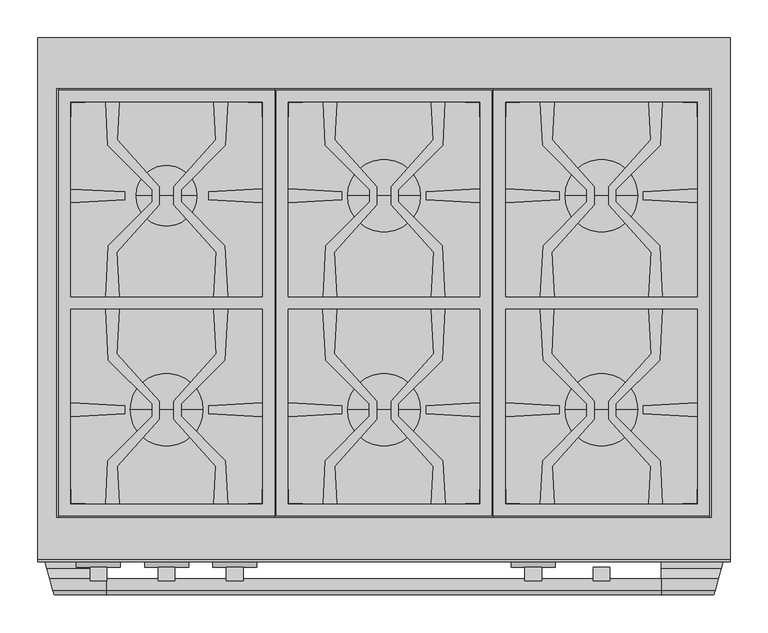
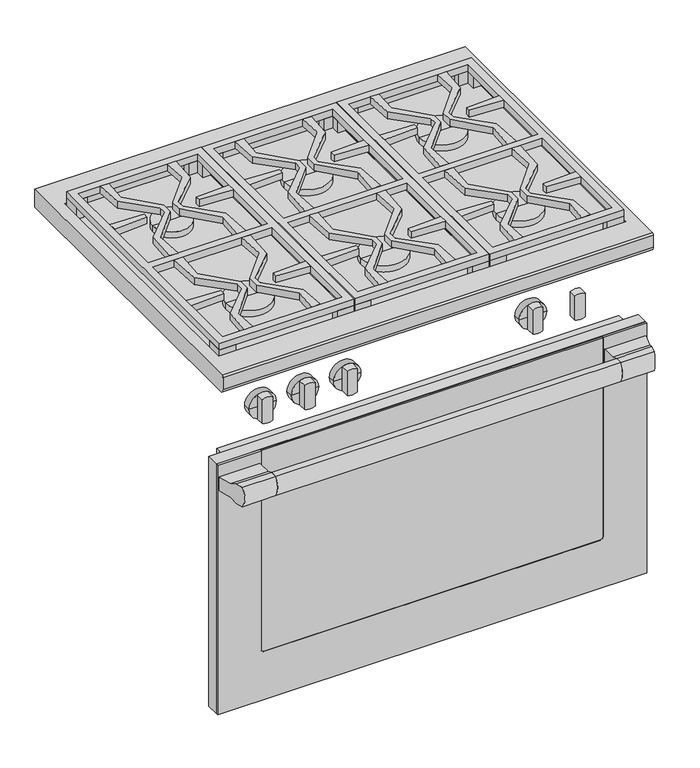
"""IFC4 building model written with IfcOpenShell, lengths in millimetres: proxy geometry, 10902390_USA_HR1934-2LP_EDST-CLS : 25193472_USA_10902390_HR1934-2LP_EDST-CLS."""

from ifc_helpers import new_model, si_unit, point, frame, frame_2d, origin, place, context, project, spatial, polyline, circle_curve, ellipse_curve, trimmed, segment, composite_curve, outline, extrude, source, transform, mapped, element, save
from ifc_brep_helpers import plane_surface, cylinder_surface, revolved_surface, advanced_brep


def specialty_equipment_318ea96c(model_context):
    return source(origin(), model_context, "Body", "SolidModel", [
        extrude(outline(composite_curve([segment(polyline([(-729.0, 667.0), (-714.0, 667.0), (-714.0, 624.0), (-729.0, 624.0)]), True, "CONTINUOUS"), segment(trimmed(circle_curve(frame_2d((-693.4791667, 645.5)), 41.5208333), [point((-729.0, 624.0))], [point((-729.0, 667.0))], False, "CARTESIAN"), True, "CONTINUOUS")], self_intersect=False)), frame((-366.0, 0.0, 0.0), z_axis=(1.0, 0.0, 0.0), x_axis=(0.0, 1.0, 0.0)), (0.0, 0.0, 1.0), 732.0),
        extrude(outline(polyline([(-456.0, -638.0), (456.0, -638.0), (456.0, -664.7), (-456.0, -664.7), (-456.0, -638.0)])), frame((0.0, 0.0, 127.0), z_axis=(0.0, 0.0, 1.0), x_axis=(1.0, 0.0, 0.0)), (0.0, 0.0, 1.0), 561.0),
        extrude(outline(polyline([(-455.0, -664.7), (455.0, -664.7), (455.0, -668.7), (-455.0, -668.7), (-455.0, -664.7)])), frame((0.0, 0.0, 128.0), z_axis=(0.0, 0.0, 1.0), x_axis=(1.0, 0.0, 0.0)), (0.0, 0.0, 1.0), 559.0),
        advanced_brep(
        [(363.0, -664.7, 688.0), (456.0, -664.7, 688.0), (456.0, -664.7, 127.0), (-456.0, -664.7, 127.0), (-456.0, -664.7, 688.0), (-363.0, -664.7, 688.0), (-363.0, -664.7, 687.0), (-455.0, -664.7, 687.0), (-455.0, -664.7, 128.0), (455.0, -664.7, 128.0), (455.0, -664.7, 687.0), (363.0, -664.7, 687.0), (-363.0, -670.0, 688.0), (-456.0, -670.0, 688.0), (-456.0, -670.0, 127.0), (456.0, -670.0, 127.0), (456.0, -670.0, 688.0), (363.0, -670.0, 688.0), (363.0, -670.0, 241.0), (357.0, -670.0, 235.0), (-357.0, -670.0, 235.0), (-363.0, -670.0, 241.0), (-363.0, -668.7, 241.0), (-363.0, -668.7, 687.0), (357.0, -668.7, 235.0), (-357.0, -668.7, 235.0), (363.0, -668.7, 687.0), (363.0, -668.7, 241.0), (455.0, -668.7, 687.0), (455.0, -668.7, 128.0), (-455.0, -668.7, 128.0), (-455.0, -668.7, 687.0)],
        [
            (0, 1),
            (1, 2),
            (2, 3),
            (3, 4),
            (4, 5),
            (5, 6),
            (6, 7),
            (7, 8),
            (8, 9),
            (9, 10),
            (10, 11),
            (11, 0),
            (12, 13),
            (13, 14),
            (14, 15),
            (15, 16),
            (16, 17),
            (17, 18),
            (18, 19, circle_curve(frame((357.0, -670.0, 241.0), z_axis=(0.0, 1.0, 0.0), x_axis=(-1.0, 0.0, 0.0)), 6.0)),
            (19, 20),
            (20, 21, circle_curve(frame((-357.0, -670.0, 241.0), z_axis=(0.0, 1.0, 0.0), x_axis=(-1.0, 0.0, 0.0)), 6.0)),
            (21, 12),
            (21, 22),
            (22, 23),
            (23, 6),
            (5, 12),
            (19, 24),
            (24, 25),
            (25, 20),
            (17, 0),
            (11, 26),
            (26, 27),
            (27, 18),
            (16, 1),
            (15, 2),
            (14, 3),
            (13, 4),
            (25, 22, circle_curve(frame((-357.0, -668.7, 241.0), z_axis=(0.0, 1.0, 0.0), x_axis=(-1.0, 0.0, 0.0)), 6.0)),
            (27, 24, circle_curve(frame((357.0, -668.7, 241.0), z_axis=(0.0, 1.0, 0.0), x_axis=(-1.0, 0.0, 0.0)), 6.0)),
            (28, 29),
            (29, 30),
            (30, 31),
            (31, 23),
            (26, 28),
            (28, 10),
            (9, 29),
            (8, 30),
            (7, 31),
        ],
        [
            plane_surface(frame((-363.0, -664.7, 241.0), z_axis=(0.0, 1.0, 0.0), x_axis=(0.0, 0.0, -1.0))),
            plane_surface(frame((-363.0, -670.0, 241.0), z_axis=(0.0, -1.0, 0.0), x_axis=(0.0, 0.0, 1.0))),
            plane_surface(frame((-363.0, -664.7, 688.0), z_axis=(1.0, 0.0, 0.0), x_axis=(0.0, -1.0, 0.0))),
            plane_surface(frame((-357.0, -664.7, 235.0), z_axis=(0.0, 0.0, 1.0), x_axis=(0.0, -1.0, 0.0))),
            plane_surface(frame((363.0, -664.7, 241.0), z_axis=(-1.0, 0.0, 0.0), x_axis=(0.0, -1.0, 0.0))),
            plane_surface(frame((363.0, -664.7, 688.0), z_axis=(0.0, 0.0, 1.0), x_axis=(0.0, -1.0, 0.0))),
            plane_surface(frame((456.0, -664.7, 688.0), z_axis=(1.0, 0.0, 0.0), x_axis=(0.0, -1.0, 0.0))),
            plane_surface(frame((456.0, -664.7, 127.0), z_axis=(0.0, 0.0, -1.0), x_axis=(0.0, -1.0, 0.0))),
            plane_surface(frame((-456.0, -664.7, 127.0), z_axis=(-1.0, 0.0, 0.0), x_axis=(0.0, -1.0, 0.0))),
            plane_surface(frame((-456.0, -664.7, 688.0), z_axis=(0.0, 0.0, 1.0), x_axis=(0.0, -1.0, 0.0))),
            revolved_surface(polyline([(-363.0, -670.0, 241.0), (-363.0, -668.7, 241.0)]), (-357.0, -670.0, 241.0), (0.0, -1.0, 0.0)),
            revolved_surface(polyline([(351.0, -670.0, 241.0), (351.0, -668.7, 241.0)]), (357.0, -670.0, 241.0), (0.0, -1.0, 0.0)),
            plane_surface(frame((455.0, -668.7, 687.0), z_axis=(0.0, 1.0, 0.0), x_axis=(0.0, 0.0, 1.0))),
            plane_surface(frame((455.0, -664.7, 687.0), z_axis=(-1.0, 0.0, 0.0), x_axis=(0.0, -1.0, 0.0))),
            plane_surface(frame((455.0, -664.7, 128.0), z_axis=(0.0, 0.0, 1.0), x_axis=(0.0, -1.0, 0.0))),
            plane_surface(frame((-455.0, -664.7, 128.0), z_axis=(1.0, 0.0, 0.0), x_axis=(0.0, -1.0, 0.0))),
            plane_surface(frame((-455.0, -664.7, 687.0), z_axis=(0.0, 0.0, -1.0), x_axis=(0.0, -1.0, 0.0))),
        ],
        [
            (0, [[1, 2, 3, 4, 5, 6, 7, 8, 9, 10, 11, 12]]),
            (1, [[13, 14, 15, 16, 17, 18, 19, 20, 21, 22]]),
            (2, [[-22, 23, 24, 25, -6, 26]]),
            (3, [[-20, 27, 28, 29]]),
            (4, [[-18, 30, -12, 31, 32, 33]]),
            (5, [[-1, -30, -17, 34]]),
            (6, [[-2, -34, -16, 35]]),
            (7, [[-3, -35, -15, 36]]),
            (8, [[-4, -36, -14, 37]]),
            (9, [[-5, -37, -13, -26]]),
            (10, [[-21, -29, 38, -23]]),
            (11, [[-19, -33, 39, -27]]),
            (12, [[40, 41, 42, 43, -24, -38, -28, -39, -32, 44]]),
            (13, [[-40, 45, -10, 46]]),
            (14, [[-41, -46, -9, 47]]),
            (15, [[-42, -47, -8, 48]]),
            (16, [[-45, -44, -31, -11]]),
            (16, [[-48, -7, -25, -43]]),
        ],
    ),
        extrude(outline(polyline([(-427.0, -617.0), (427.0, -617.0), (427.0, -638.0), (-427.0, -638.0), (-427.0, -617.0)])), frame((0.0, 0.0, 133.0), z_axis=(0.0, 0.0, 1.0), x_axis=(1.0, 0.0, 0.0)), (0.0, 0.0, 1.0), 550.0),
        advanced_brep(
        [(-366.0, -700.0, 630.0), (-366.0, -670.0, 630.0), (-366.0, -670.0, 661.0), (-366.0, -700.0, 661.0), (-366.0, -714.0, 667.0), (-366.0, -729.0, 667.0), (-366.0, -729.0, 624.0), (-366.0, -714.0, 624.0), (-444.9615242, -700.0, 630.0), (-453.0, -670.0, 630.0), (-453.0, -670.0, 661.0), (-444.9615242, -700.0, 661.0), (-441.2102355, -714.0, 667.0), (-437.1909976, -729.0, 667.0), (-437.1909976, -729.0, 624.0), (-441.2102355, -714.0, 624.0)],
        [
            (0, 1),
            (1, 2),
            (2, 3),
            (3, 4),
            (4, 5),
            (5, 6, circle_curve(frame((-366.0, -693.4791667, 645.5), z_axis=(1.0, 0.0, 0.0), x_axis=(0.0, 0.0, 1.0)), 41.5208333)),
            (6, 7),
            (7, 0),
            (0, 8),
            (8, 9),
            (9, 1),
            (9, 10),
            (10, 2),
            (10, 11),
            (11, 3),
            (4, 12),
            (12, 13),
            (13, 5),
            (13, 14, ellipse_curve(frame((-446.7087763, -693.4791667, 645.5), z_axis=(0.9659258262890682, 0.25881904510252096, 0.0), x_axis=(0.2588190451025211, -0.9659258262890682, 0.0)), 42.9855297, 41.5208333)),
            (14, 6),
            (14, 15),
            (15, 7),
            (8, 15),
            (12, 11),
        ],
        [
            plane_surface(frame((-366.0, -670.0, 630.0), z_axis=(1.0, 0.0, 0.0), x_axis=(0.0, 1.0, 0.0))),
            plane_surface(frame((-366.0, -700.0, 630.0), z_axis=(0.0, 0.0, -1.0), x_axis=(-1.0, 0.0, 0.0))),
            plane_surface(frame((-366.0, -670.0, 630.0), z_axis=(0.0, 1.0, 0.0), x_axis=(-1.0, 0.0, 0.0))),
            plane_surface(frame((-366.0, -670.0, 661.0), z_axis=(0.0, 0.0, 1.0), x_axis=(-1.0, 0.0, 0.0))),
            plane_surface(frame((-366.0, -714.0, 667.0), z_axis=(0.0, 0.0, 1.0), x_axis=(-1.0, 0.0, 0.0))),
            cylinder_surface(frame((-453.0, -693.4791667, 645.5), z_axis=(1.0, 0.0, 0.0), x_axis=(0.0, 0.0, 1.0)), 41.5208333),
            plane_surface(frame((-366.0, -729.0, 624.0), z_axis=(0.0, 0.0, -1.0), x_axis=(-1.0, 0.0, 0.0))),
            plane_surface(frame((-430.5578883, -753.7551012, 668.5), z_axis=(-0.9659258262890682, -0.25881904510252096, 0.0), x_axis=(0.0, 0.0, -1.0))),
            plane_surface(frame((-366.0, -700.0, 661.0), z_axis=(0.0, 0.39391929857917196, 0.919145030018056), x_axis=(-1.0, 0.0, 0.0))),
            plane_surface(frame((-366.0, -714.0, 624.0), z_axis=(0.0, 0.39391929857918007, -0.9191450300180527), x_axis=(-1.0, 0.0, 0.0))),
        ],
        [
            (0, [[1, 2, 3, 4, 5, 6, 7, 8]]),
            (1, [[-1, 9, 10, 11]]),
            (2, [[-2, -11, 12, 13]]),
            (3, [[-3, -13, 14, 15]]),
            (4, [[-5, 16, 17, 18]]),
            (5, [[-6, -18, 19, 20]]),
            (6, [[-7, -20, 21, 22]]),
            (7, [[-10, 23, -21, -19, -17, 24, -14, -12]]),
            (8, [[-4, -15, -24, -16]]),
            (9, [[-8, -22, -23, -9]]),
        ],
    ),
        advanced_brep(
        [(366.0, -700.0, 661.0), (366.0, -670.0, 661.0), (366.0, -670.0, 630.0), (366.0, -700.0, 630.0), (366.0, -714.0, 624.0), (366.0, -729.0, 624.0), (366.0, -729.0, 667.0), (366.0, -714.0, 667.0), (437.1909976, -729.0, 667.0), (441.2102355, -714.0, 667.0), (437.1909976, -729.0, 624.0), (441.2102355, -714.0, 624.0), (453.0, -670.0, 630.0), (444.9615242, -700.0, 630.0), (453.0, -670.0, 661.0), (444.9615242, -700.0, 661.0)],
        [
            (0, 1),
            (1, 2),
            (2, 3),
            (3, 4),
            (4, 5),
            (5, 6, circle_curve(frame((366.0, -693.4791667, 645.5), z_axis=(-1.0, 0.0, 0.0), x_axis=(0.0, 0.0, 1.0)), 41.5208333)),
            (6, 7),
            (7, 0),
            (6, 8),
            (8, 9),
            (9, 7),
            (5, 10),
            (10, 8, ellipse_curve(frame((446.7087763, -693.4791667, 645.5), z_axis=(-0.9659258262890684, 0.2588190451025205, 0.0), x_axis=(0.25881904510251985, 0.9659258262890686, 0.0)), 42.9855297, 41.5208333)),
            (4, 11),
            (11, 10),
            (2, 12),
            (12, 13),
            (13, 3),
            (1, 14),
            (14, 12),
            (0, 15),
            (15, 14),
            (11, 13),
            (15, 9),
        ],
        [
            plane_surface(frame((366.0, -714.0, 667.0), z_axis=(-1.0000000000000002, 0.0, 0.0), x_axis=(0.0, 0.9191450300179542, -0.3939192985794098))),
            plane_surface(frame((453.0, -714.0, 667.0), z_axis=(0.0, 0.0, 1.0), x_axis=(-1.0, 0.0, 0.0))),
            cylinder_surface(frame((366.0, -693.4791667, 645.5), z_axis=(1.0, 0.0, 0.0), x_axis=(0.0, 0.0, 1.0)), 41.5208333),
            plane_surface(frame((453.0, -729.0, 624.0), z_axis=(0.0, 0.0, -1.0), x_axis=(-1.0, 0.0, 0.0))),
            plane_surface(frame((453.0, -700.0, 630.0), z_axis=(0.0, 0.0, -1.0), x_axis=(-1.0, 0.0, 0.0))),
            plane_surface(frame((453.0, -670.0, 630.0), z_axis=(0.0, 1.0, 0.0), x_axis=(-1.0, 0.0, 0.0))),
            plane_surface(frame((453.0, -670.0, 661.0), z_axis=(0.0, 0.0, 1.0), x_axis=(-1.0, 0.0, 0.0))),
            plane_surface(frame((453.0, -670.0, 668.5), z_axis=(0.9659258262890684, -0.2588190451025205, 0.0), x_axis=(0.0, 0.0, -1.0))),
            plane_surface(frame((453.0, -700.0, 661.0), z_axis=(0.0, 0.3939192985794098, 0.9191450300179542), x_axis=(-1.0, 0.0, 0.0))),
            plane_surface(frame((453.0, -714.0, 624.0), z_axis=(0.0, 0.3939192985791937, -0.9191450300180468), x_axis=(-1.0, 0.0, 0.0))),
        ],
        [
            (0, [[1, 2, 3, 4, 5, 6, 7, 8]]),
            (1, [[-7, 9, 10, 11]]),
            (2, [[-6, 12, 13, -9]]),
            (3, [[-5, 14, 15, -12]]),
            (4, [[-3, 16, 17, 18]]),
            (5, [[-2, 19, 20, -16]]),
            (6, [[-1, 21, 22, -19]]),
            (7, [[-10, -13, -15, 23, -17, -20, -22, 24]]),
            (8, [[-8, -11, -24, -21]]),
            (9, [[-4, -18, -23, -14]]),
        ],
    ),
        extrude(outline(polyline([(206.4177304, -358.0273828), (224.4174107, -358.0273828), (221.3474419, -416.9894265), (277.4590566, -479.568392), (277.4590566, -503.4471434), (221.8930533, -565.5024535), (224.5051055, -615.0212482), (206.5054252, -615.0212482), (209.4706458, -558.0710081), (267.8494553, -499.6921986), (267.8494553, -483.3657133), (209.9764383, -425.4926963), (206.4177304, -358.0273828)])), frame((0.0, 0.0, 914.0), z_axis=(0.0, 0.0, 1.0), x_axis=(1.0, 0.0, 0.0)), (0.0, 0.0, 1.0), 15.0),
        extrude(outline(polyline([(352.5666917, -416.9448139), (349.4588735, -358.0273828), (367.4534566, -358.0273828), (363.9434746, -425.4403498), (306.0712231, -483.3126013), (306.0712231, -499.6295194), (364.5438392, -558.1021355), (367.5462487, -615.0212482), (349.541471, -615.0212482), (352.1220648, -565.4581775), (296.4590702, -503.3795395), (296.4590702, -479.6049953), (352.5666917, -416.9448139)])), frame((0.0, 0.0, 914.0), z_axis=(0.0, 0.0, 1.0), x_axis=(1.0, 0.0, 0.0)), (0.0, 0.0, 1.0), 15.0),
        extrude(outline(polyline([(-80.5822696, -358.0273828), (-62.5825893, -358.0273828), (-65.6525581, -416.9894265), (-9.5409434, -479.568392), (-9.5409434, -503.4471434), (-65.1069467, -565.5024535), (-62.4948945, -615.0212482), (-80.4945748, -615.0212482), (-77.5293542, -558.0710081), (-19.1505447, -499.6921986), (-19.1505447, -483.3657133), (-77.0235617, -425.4926963), (-80.5822696, -358.0273828)])), frame((0.0, 0.0, 914.0), z_axis=(0.0, 0.0, 1.0), x_axis=(1.0, 0.0, 0.0)), (0.0, 0.0, 1.0), 15.0),
        extrude(outline(polyline([(65.5666917, -416.9448139), (62.4588735, -358.0273828), (80.4534566, -358.0273828), (76.9434746, -425.4403498), (19.0712231, -483.3126013), (19.0712231, -499.6295194), (77.5438392, -558.1021355), (80.5462487, -615.0212482), (62.541471, -615.0212482), (65.1220648, -565.4581775), (9.4590702, -503.3795395), (9.4590702, -479.6049953), (65.5666917, -416.9448139)])), frame((0.0, 0.0, 914.0), z_axis=(0.0, 0.0, 1.0), x_axis=(1.0, 0.0, 0.0)), (0.0, 0.0, 1.0), 15.0),
        extrude(outline(polyline([(-367.5822696, -358.0273828), (-349.5825893, -358.0273828), (-352.6525581, -416.9894265), (-296.5409434, -479.568392), (-296.5409434, -503.4471434), (-352.1069467, -565.5024535), (-349.4948945, -615.0212482), (-367.4945748, -615.0212482), (-364.5293542, -558.0710081), (-306.1505447, -499.6921986), (-306.1505447, -483.3657133), (-364.0235617, -425.4926963), (-367.5822696, -358.0273828)])), frame((0.0, 0.0, 914.0), z_axis=(0.0, 0.0, 1.0), x_axis=(1.0, 0.0, 0.0)), (0.0, 0.0, 1.0), 15.0),
        extrude(outline(polyline([(-224.5411265, -358.0273828), (-206.5465434, -358.0273828), (-210.0565254, -425.4403498), (-267.9287769, -483.3126013), (-267.9287769, -499.6295194), (-209.4561608, -558.1021355), (-206.4537513, -615.0212482), (-224.458529, -615.0212482), (-221.8779352, -565.4581775), (-277.5409298, -503.3795395), (-277.5409298, -479.6049953), (-221.4333083, -416.9448139), (-224.5411265, -358.0273828)])), frame((0.0, 0.0, 914.0), z_axis=(0.0, 0.0, 1.0), x_axis=(1.0, 0.0, 0.0)), (0.0, 0.0, 1.0), 15.0),
        extrude(outline(polyline([(206.4614138, -85.0), (224.4614138, -85.0), (221.8661974, -134.5196799), (277.5, -196.6082182), (277.5, -220.3917818), (221.3710782, -283.0328838), (224.4614138, -342.0), (206.4614138, -342.0), (209.9971843, -274.5334805), (267.8891082, -216.6415566), (267.8891082, -200.3584434), (209.4441217, -141.9134569), (206.4614138, -85.0)])), frame((0.0, 0.0, 914.0), z_axis=(0.0, 0.0, 1.0), x_axis=(1.0, 0.0, 0.0)), (0.0, 0.0, 1.0), 15.0),
        extrude(outline(polyline([(349.5, -85.0), (367.5, -85.0), (364.5172921, -141.9134569), (306.1108918, -200.3198573), (306.1108918, -216.6801428), (363.9642295, -274.5334805), (367.5, -342.0), (349.5, -342.0), (352.5903356, -283.0328839), (296.5, -220.4348449), (296.5, -196.5651551), (352.0952165, -134.5196799), (349.5, -85.0)])), frame((0.0, 0.0, 914.0), z_axis=(0.0, 0.0, 1.0), x_axis=(1.0, 0.0, 0.0)), (0.0, 0.0, 1.0), 15.0),
        extrude(outline(polyline([(-367.5385862, -85.0), (-349.5385862, -85.0), (-352.1338026, -134.5196799), (-296.5, -196.6082182), (-296.5, -220.3917818), (-352.6289218, -283.0328838), (-349.5385862, -342.0), (-367.5385862, -342.0), (-364.0028157, -274.5334805), (-306.1108918, -216.6415566), (-306.1108918, -200.3584434), (-364.5558783, -141.9134569), (-367.5385862, -85.0)])), frame((0.0, 0.0, 914.0), z_axis=(0.0, 0.0, 1.0), x_axis=(1.0, 0.0, 0.0)), (0.0, 0.0, 1.0), 15.0),
        extrude(outline(polyline([(-224.5, -85.0), (-206.5, -85.0), (-209.4827079, -141.9134569), (-267.8891082, -200.3198573), (-267.8891082, -216.6801428), (-210.0357705, -274.5334805), (-206.5, -342.0), (-224.5, -342.0), (-221.4096644, -283.0328839), (-277.5, -220.4348449), (-277.5, -196.5651551), (-221.9047835, -134.5196799), (-224.5, -85.0)])), frame((0.0, 0.0, 914.0), z_axis=(0.0, 0.0, 1.0), x_axis=(1.0, 0.0, 0.0)), (0.0, 0.0, 1.0), 15.0),
        extrude(outline(polyline([(-62.5385862, -85.0), (-65.1338026, -134.5196799), (-9.5, -196.6082182), (-9.5, -220.3917818), (-65.6289218, -283.0328838), (-62.5385862, -342.0), (-80.5385862, -342.0), (-77.0028157, -274.5334805), (-19.1108918, -216.6415566), (-19.1108918, -200.3584434), (-77.5558783, -141.9134569), (-80.5385862, -85.0), (-62.5385862, -85.0)])), frame((0.0, 0.0, 914.0), z_axis=(0.0, 0.0, 1.0), x_axis=(1.0, 0.0, 0.0)), (0.0, 0.0, 1.0), 15.0),
        extrude(outline(polyline([(65.0952165, -134.5196799), (62.5, -85.0), (80.5, -85.0), (77.5172921, -141.9134569), (19.1108918, -200.3198573), (19.1108918, -216.6801428), (76.9642295, -274.5334805), (80.5, -342.0), (62.5, -342.0), (65.5903356, -283.0328839), (9.5, -220.4348449), (9.5, -196.5651551), (65.0952165, -134.5196799)])), frame((0.0, 0.0, 914.0), z_axis=(0.0, 0.0, 1.0), x_axis=(1.0, 0.0, 0.0)), (0.0, 0.0, 1.0), 15.0),
        extrude(outline(polyline([(429.5, -67.0), (429.5, -633.0), (144.5, -633.0), (144.5, -67.0), (429.5, -67.0)])), frame((0.0, 0.0, 870.0), z_axis=(0.0, 0.0, 1.0), x_axis=(1.0, 0.0, 0.0)), (0.0, 0.0, 1.0), 17.0),
        extrude(outline(polyline([(142.5, -69.0), (142.5, -631.0), (-142.5, -631.0), (-142.5, -69.0), (142.5, -69.0)])), frame((0.0, 0.0, 870.0), z_axis=(0.0, 0.0, 1.0), x_axis=(1.0, 0.0, 0.0)), (0.0, 0.0, 1.0), 17.0),
        extrude(outline(polyline([(-144.5, -67.0), (-144.5, -633.0), (-429.5, -633.0), (-429.5, -67.0), (-144.5, -67.0)])), frame((0.0, 0.0, 870.0), z_axis=(0.0, 0.0, 1.0), x_axis=(1.0, 0.0, 0.0)), (0.0, 0.0, 1.0), 17.0),
        extrude(outline(polyline([(-342.5, -213.7921261), (-413.5, -217.4578849), (-413.5, -199.5421151), (-342.5, -203.2078739), (-342.5, -213.7921261)])), frame((0.0, 0.0, 914.0), z_axis=(0.0, 0.0, 1.0), x_axis=(1.0, 0.0, 0.0)), (0.0, 0.0, 1.0), 15.0),
        extrude(outline(polyline([(-160.5, -199.5029948), (-160.5, -217.4970052), (-231.5, -213.7790477), (-231.5, -203.2209523), (-160.5, -199.5029948)])), frame((0.0, 0.0, 914.0), z_axis=(0.0, 0.0, 1.0), x_axis=(1.0, 0.0, 0.0)), (0.0, 0.0, 1.0), 15.0),
        extrude(outline(polyline([(-342.5, -496.2921261), (-413.5, -499.9578849), (-413.5, -482.0421151), (-342.5, -485.7078739), (-342.5, -496.2921261)])), frame((0.0, 0.0, 914.0), z_axis=(0.0, 0.0, 1.0), x_axis=(1.0, 0.0, 0.0)), (0.0, 0.0, 1.0), 15.0),
        extrude(outline(polyline([(-160.5, -482.0029948), (-160.5, -499.9970052), (-231.5, -496.2790477), (-231.5, -485.7209523), (-160.5, -482.0029948)])), frame((0.0, 0.0, 914.0), z_axis=(0.0, 0.0, 1.0), x_axis=(1.0, 0.0, 0.0)), (0.0, 0.0, 1.0), 15.0),
        extrude(outline(polyline([(-144.5, -631.0), (-179.5, -631.0), (-179.5, -615.0), (-160.5, -615.0), (-160.5, -596.0), (-144.5, -596.0), (-144.5, -631.0)])), frame((0.0, 0.0, 887.0), z_axis=(0.0, 0.0, 1.0), x_axis=(1.0, 0.0, 0.0)), (0.0, 0.0, 1.0), 27.0),
        extrude(outline(polyline([(-429.5, -631.0), (-429.5, -596.0), (-413.5, -596.0), (-413.5, -615.0), (-394.5, -615.0), (-394.5, -631.0), (-429.5, -631.0)])), frame((0.0, 0.0, 887.0), z_axis=(0.0, 0.0, 1.0), x_axis=(1.0, 0.0, 0.0)), (0.0, 0.0, 1.0), 27.0),
        extrude(outline(polyline([(-144.5, -69.0), (-144.5, -104.0), (-160.5, -104.0), (-160.5, -85.0), (-179.5, -85.0), (-179.5, -69.0), (-144.5, -69.0)])), frame((0.0, 0.0, 887.0), z_axis=(0.0, 0.0, 1.0), x_axis=(1.0, 0.0, 0.0)), (0.0, 0.0, 1.0), 27.0),
        extrude(outline(polyline([(-429.5, -69.0), (-394.5, -69.0), (-394.5, -85.0), (-413.5, -85.0), (-413.5, -104.0), (-429.5, -104.0), (-429.5, -69.0)])), frame((0.0, 0.0, 887.0), z_axis=(0.0, 0.0, 1.0), x_axis=(1.0, 0.0, 0.0)), (0.0, 0.0, 1.0), 27.0),
        extrude(outline(polyline([(-126.4662166, -499.9810574), (-126.4662166, -482.0189426), (-55.4662166, -485.7078739), (-55.4662166, -496.2921261), (-126.4662166, -499.9810574)])), frame((0.0, 0.0, 914.0), z_axis=(0.0, 0.0, 1.0), x_axis=(1.0, 0.0, 0.0)), (0.0, 0.0, 1.0), 15.0),
        extrude(outline(polyline([(126.5337834, -482.0262039), (126.5337834, -499.9737961), (55.5337834, -496.2790477), (55.5337834, -485.7209523), (126.5337834, -482.0262039)])), frame((0.0, 0.0, 914.0), z_axis=(0.0, 0.0, 1.0), x_axis=(1.0, 0.0, 0.0)), (0.0, 0.0, 1.0), 15.0),
        extrude(outline(polyline([(160.5, -499.9810574), (160.5, -482.0189426), (231.5, -485.7078739), (231.5, -496.2921261), (160.5, -499.9810574)])), frame((0.0, 0.0, 914.0), z_axis=(0.0, 0.0, 1.0), x_axis=(1.0, 0.0, 0.0)), (0.0, 0.0, 1.0), 15.0),
        extrude(outline(polyline([(413.5, -482.0262039), (413.5, -499.9737961), (342.5, -496.2790477), (342.5, -485.7209523), (413.5, -482.0262039)])), frame((0.0, 0.0, 914.0), z_axis=(0.0, 0.0, 1.0), x_axis=(1.0, 0.0, 0.0)), (0.0, 0.0, 1.0), 15.0),
        extrude(outline(polyline([(160.5, -217.4810574), (160.5, -199.5189426), (231.5, -203.2078739), (231.5, -213.7921261), (160.5, -217.4810574)])), frame((0.0, 0.0, 914.0), z_axis=(0.0, 0.0, 1.0), x_axis=(1.0, 0.0, 0.0)), (0.0, 0.0, 1.0), 15.0),
        extrude(outline(polyline([(413.5, -199.5262039), (413.5, -217.4737961), (342.5, -213.7790477), (342.5, -203.2209523), (413.5, -199.5262039)])), frame((0.0, 0.0, 914.0), z_axis=(0.0, 0.0, 1.0), x_axis=(1.0, 0.0, 0.0)), (0.0, 0.0, 1.0), 15.0),
        extrude(outline(polyline([(-126.4662166, -217.4810574), (-126.4662166, -199.5189426), (-55.4662166, -203.2078739), (-55.4662166, -213.7921261), (-126.4662166, -217.4810574)])), frame((0.0, 0.0, 914.0), z_axis=(0.0, 0.0, 1.0), x_axis=(1.0, 0.0, 0.0)), (0.0, 0.0, 1.0), 15.0),
        extrude(outline(polyline([(126.5337834, -199.5262039), (126.5337834, -217.4737961), (55.5337834, -213.7790477), (55.5337834, -203.2209523), (126.5337834, -199.5262039)])), frame((0.0, 0.0, 914.0), z_axis=(0.0, 0.0, 1.0), x_axis=(1.0, 0.0, 0.0)), (0.0, 0.0, 1.0), 15.0),
        advanced_brep(
        [(239.0, -208.5, 887.0), (335.0, -208.5, 887.0), (335.0, -208.5, 901.0), (239.0, -208.5, 901.0), (287.0, -208.5, 887.0), (287.0, -208.5, 901.0)],
        [
            (0, 1, circle_curve(frame((287.0, -208.5, 887.0), z_axis=(0.0, 0.0, 1.0), x_axis=(1.0, 0.0, 0.0)), 48.0)),
            (1, 2),
            (2, 3, circle_curve(frame((287.0, -208.5, 901.0), z_axis=(0.0, 0.0, -1.0), x_axis=(1.0, 0.0, 0.0)), 48.0)),
            (3, 0),
            (1, 0, circle_curve(frame((287.0, -208.5, 887.0), z_axis=(0.0, 0.0, 1.0), x_axis=(1.0, 0.0, 0.0)), 48.0)),
            (3, 2, circle_curve(frame((287.0, -208.5, 901.0), z_axis=(0.0, 0.0, -1.0), x_axis=(1.0, 0.0, 0.0)), 48.0)),
            (4, 1),
            (0, 4),
            (2, 5),
            (5, 3),
        ],
        [
            cylinder_surface(frame((287.0, -208.5, 2424.4), z_axis=(0.0, 0.0, -1.0), x_axis=(1.0, 0.0, 0.0)), 48.0),
            plane_surface(frame((287.0, -208.5, 887.0), z_axis=(0.0, 0.0, -1.0), x_axis=(1.0, 0.0, 0.0))),
            plane_surface(frame((287.0, -208.5, 901.0), z_axis=(0.0, 0.0, 1.0), x_axis=(1.0, 0.0, 0.0))),
        ],
        [
            (0, [[1, 2, 3, 4]]),
            (0, [[5, -4, 6, -2]]),
            (1, [[7, -1, 8]]),
            (1, [[-8, -5, -7]]),
            (2, [[-3, 9, 10]]),
            (2, [[-6, -10, -9]]),
        ],
    ),
        extrude(outline(polyline([(-144.5, -69.0), (-144.5, -631.0), (-429.5, -631.0), (-429.5, -69.0), (-144.5, -69.0)]), holes=[polyline([(-160.5, -85.0), (-413.5, -85.0), (-413.5, -342.0), (-160.5, -342.0), (-160.5, -85.0)]), polyline([(-413.5, -358.0), (-413.5, -615.0), (-160.5, -615.0), (-160.5, -358.0), (-413.5, -358.0)])]), frame((0.0, 0.0, 914.0), z_axis=(0.0, 0.0, 1.0), x_axis=(1.0, 0.0, 0.0)), (0.0, 0.0, 1.0), 15.0),
        extrude(outline(polyline([(142.5, -69.0), (142.5, -631.0), (-142.5, -631.0), (-142.5, -69.0), (142.5, -69.0)]), holes=[polyline([(126.5337834, -85.0), (-126.4662166, -85.0), (-126.4662166, -342.0), (126.5337834, -342.0), (126.5337834, -85.0)]), polyline([(-126.4662166, -358.0), (-126.4662166, -615.0), (126.5337834, -615.0), (126.5337834, -358.0), (-126.4662166, -358.0)])]), frame((0.0, 0.0, 914.0), z_axis=(0.0, 0.0, 1.0), x_axis=(1.0, 0.0, 0.0)), (0.0, 0.0, 1.0), 15.0),
        extrude(outline(polyline([(429.5, -69.0), (429.5, -631.0), (144.5, -631.0), (144.5, -69.0), (429.5, -69.0)]), holes=[polyline([(413.5, -85.0), (160.5, -85.0), (160.5, -342.0), (413.5, -342.0), (413.5, -85.0)]), polyline([(160.5, -358.0), (160.5, -615.0), (413.5, -615.0), (413.5, -358.0), (160.5, -358.0)])]), frame((0.0, 0.0, 914.0), z_axis=(0.0, 0.0, 1.0), x_axis=(1.0, 0.0, 0.0)), (0.0, 0.0, 1.0), 15.0),
        advanced_brep(
        [(239.0, -491.0, 887.0), (335.0, -491.0, 887.0), (335.0, -491.0, 901.0), (239.0, -491.0, 901.0), (287.0, -491.0, 887.0), (287.0, -491.0, 901.0)],
        [
            (0, 1, circle_curve(frame((287.0, -491.0, 887.0), z_axis=(0.0, 0.0, 1.0), x_axis=(1.0, 0.0, 0.0)), 48.0)),
            (1, 2),
            (2, 3, circle_curve(frame((287.0, -491.0, 901.0), z_axis=(0.0, 0.0, -1.0), x_axis=(1.0, 0.0, 0.0)), 48.0)),
            (3, 0),
            (1, 0, circle_curve(frame((287.0, -491.0, 887.0), z_axis=(0.0, 0.0, 1.0), x_axis=(1.0, 0.0, 0.0)), 48.0)),
            (3, 2, circle_curve(frame((287.0, -491.0, 901.0), z_axis=(0.0, 0.0, -1.0), x_axis=(1.0, 0.0, 0.0)), 48.0)),
            (4, 1),
            (0, 4),
            (2, 5),
            (5, 3),
        ],
        [
            cylinder_surface(frame((287.0, -491.0, 2424.4), z_axis=(0.0, 0.0, -1.0), x_axis=(1.0, 0.0, 0.0)), 48.0),
            plane_surface(frame((287.0, -491.0, 887.0), z_axis=(0.0, 0.0, -1.0), x_axis=(1.0, 0.0, 0.0))),
            plane_surface(frame((287.0, -491.0, 901.0), z_axis=(0.0, 0.0, 1.0), x_axis=(1.0, 0.0, 0.0))),
        ],
        [
            (0, [[1, 2, 3, 4]]),
            (0, [[5, -4, 6, -2]]),
            (1, [[7, -1, 8]]),
            (1, [[-8, -5, -7]]),
            (2, [[-3, 9, 10]]),
            (2, [[-6, -10, -9]]),
        ],
    ),
        extrude(outline(polyline([(429.5, -631.0), (394.5, -631.0), (394.5, -615.0), (413.5, -615.0), (413.5, -596.0), (429.5, -596.0), (429.5, -631.0)])), frame((0.0, 0.0, 887.0), z_axis=(0.0, 0.0, 1.0), x_axis=(1.0, 0.0, 0.0)), (0.0, 0.0, 1.0), 27.0),
        extrude(outline(polyline([(144.5, -631.0), (144.5, -596.0), (160.5125078, -596.0), (160.5125078, -615.0), (179.5, -615.0), (179.5, -631.0), (144.5, -631.0)])), frame((0.0, 0.0, 887.0), z_axis=(0.0, 0.0, 1.0), x_axis=(1.0, 0.0, 0.0)), (0.0, 0.0, 1.0), 27.0),
        extrude(outline(polyline([(429.5, -69.0), (429.5, -104.0), (413.4874922, -104.0), (413.4874922, -85.0), (394.5, -85.0), (394.5, -69.0), (429.5, -69.0)])), frame((0.0, 0.0, 887.0), z_axis=(0.0, 0.0, 1.0), x_axis=(1.0, 0.0, 0.0)), (0.0, 0.0, 1.0), 27.0),
        extrude(outline(polyline([(144.5, -69.0), (179.5, -69.0), (179.5, -85.0), (160.5125078, -85.0), (160.5125078, -104.0), (144.5, -104.0), (144.5, -69.0)])), frame((0.0, 0.0, 887.0), z_axis=(0.0, 0.0, 1.0), x_axis=(1.0, 0.0, 0.0)), (0.0, 0.0, 1.0), 27.0),
        extrude(outline(polyline([(142.5, -631.0), (107.5, -631.0), (107.5, -615.0), (126.5337834, -615.0), (126.5337834, -596.0), (142.5, -596.0), (142.5, -631.0)])), frame((0.0, 0.0, 887.0), z_axis=(0.0, 0.0, 1.0), x_axis=(1.0, 0.0, 0.0)), (0.0, 0.0, 1.0), 27.0),
        extrude(outline(polyline([(-142.5, -631.0), (-142.5, -596.0), (-126.4662166, -596.0), (-126.4662166, -615.0), (-107.5, -615.0), (-107.5, -631.0), (-142.5, -631.0)])), frame((0.0, 0.0, 887.0), z_axis=(0.0, 0.0, 1.0), x_axis=(1.0, 0.0, 0.0)), (0.0, 0.0, 1.0), 27.0),
        extrude(outline(polyline([(142.5, -69.0), (142.5, -104.0), (126.5337834, -104.0), (126.5337834, -85.0), (107.5, -85.0), (107.5, -69.0), (142.5, -69.0)])), frame((0.0, 0.0, 887.0), z_axis=(0.0, 0.0, 1.0), x_axis=(1.0, 0.0, 0.0)), (0.0, 0.0, 1.0), 27.0),
        extrude(outline(polyline([(-142.5, -69.0), (-107.5, -69.0), (-107.5, -85.0), (-126.4662166, -85.0), (-126.4662166, -104.0), (-142.5, -104.0), (-142.5, -69.0)])), frame((0.0, 0.0, 887.0), z_axis=(0.0, 0.0, 1.0), x_axis=(1.0, 0.0, 0.0)), (0.0, 0.0, 1.0), 27.0),
        advanced_brep(
        [(-48.0, -208.5, 887.0), (48.0, -208.5, 887.0), (48.0, -208.5, 901.0), (-48.0, -208.5, 901.0), (0.0, -208.5, 887.0), (0.0, -208.5, 901.0)],
        [
            (0, 1, circle_curve(frame((0.0, -208.5, 887.0), z_axis=(0.0, 0.0, 1.0), x_axis=(1.0, 0.0, 0.0)), 48.0)),
            (1, 2),
            (2, 3, circle_curve(frame((0.0, -208.5, 901.0), z_axis=(0.0, 0.0, -1.0), x_axis=(1.0, 0.0, 0.0)), 48.0)),
            (3, 0),
            (1, 0, circle_curve(frame((0.0, -208.5, 887.0), z_axis=(0.0, 0.0, 1.0), x_axis=(1.0, 0.0, 0.0)), 48.0)),
            (3, 2, circle_curve(frame((0.0, -208.5, 901.0), z_axis=(0.0, 0.0, -1.0), x_axis=(1.0, 0.0, 0.0)), 48.0)),
            (4, 1),
            (0, 4),
            (2, 5),
            (5, 3),
        ],
        [
            cylinder_surface(frame((0.0, -208.5, 2338.4), z_axis=(0.0, 0.0, -1.0), x_axis=(1.0, 0.0, 0.0)), 48.0),
            plane_surface(frame((0.0, -208.5, 887.0), z_axis=(0.0, 0.0, -1.0), x_axis=(1.0, 0.0, 0.0))),
            plane_surface(frame((0.0, -208.5, 901.0), z_axis=(0.0, 0.0, 1.0), x_axis=(1.0, 0.0, 0.0))),
        ],
        [
            (0, [[1, 2, 3, 4]]),
            (0, [[5, -4, 6, -2]]),
            (1, [[7, -1, 8]]),
            (1, [[-8, -5, -7]]),
            (2, [[-3, 9, 10]]),
            (2, [[-6, -10, -9]]),
        ],
    ),
        advanced_brep(
        [(-287.0, -208.5, 887.0), (-247.0, -208.5, 887.0), (-327.0, -208.5, 887.0), (-327.0, -208.5, 901.0), (-247.0, -208.5, 901.0), (-287.0, -208.5, 901.0)],
        [
            (0, 1),
            (1, 2, circle_curve(frame((-287.0, -208.5, 887.0), z_axis=(0.0, 0.0, -1.0), x_axis=(1.0, 0.0, 0.0)), 40.0)),
            (2, 0),
            (2, 1, circle_curve(frame((-287.0, -208.5, 887.0), z_axis=(0.0, 0.0, -1.0), x_axis=(1.0, 0.0, 0.0)), 40.0)),
            (3, 4, circle_curve(frame((-287.0, -208.5, 901.0), z_axis=(0.0, 0.0, 1.0), x_axis=(1.0, 0.0, 0.0)), 40.0)),
            (4, 5),
            (5, 3),
            (4, 3, circle_curve(frame((-287.0, -208.5, 901.0), z_axis=(0.0, 0.0, 1.0), x_axis=(1.0, 0.0, 0.0)), 40.0)),
            (1, 4),
            (3, 2),
        ],
        [
            plane_surface(frame((-287.0, -208.5, 887.0), z_axis=(0.0, 0.0, -1.0), x_axis=(1.0, 0.0, 0.0))),
            plane_surface(frame((-287.0, -208.5, 901.0), z_axis=(0.0, 0.0, 1.0), x_axis=(1.0, 0.0, 0.0))),
            cylinder_surface(frame((-287.0, -208.5, 2424.4), z_axis=(0.0, 0.0, -1.0), x_axis=(1.0, 0.0, 0.0)), 40.0),
        ],
        [
            (0, [[1, 2, 3]]),
            (0, [[-3, 4, -1]]),
            (1, [[5, 6, 7]]),
            (1, [[8, -7, -6]]),
            (2, [[-2, 9, -5, 10]]),
            (2, [[-4, -10, -8, -9]]),
        ],
    ),
        advanced_brep(
        [(-335.0, -491.0, 887.0), (-239.0, -491.0, 887.0), (-239.0, -491.0, 901.0), (-335.0, -491.0, 901.0), (-287.0, -491.0, 887.0), (-287.0, -491.0, 901.0)],
        [
            (0, 1, circle_curve(frame((-287.0, -491.0, 887.0), z_axis=(0.0, 0.0, 1.0), x_axis=(1.0, 0.0, 0.0)), 48.0)),
            (1, 2),
            (2, 3, circle_curve(frame((-287.0, -491.0, 901.0), z_axis=(0.0, 0.0, -1.0), x_axis=(1.0, 0.0, 0.0)), 48.0)),
            (3, 0),
            (1, 0, circle_curve(frame((-287.0, -491.0, 887.0), z_axis=(0.0, 0.0, 1.0), x_axis=(1.0, 0.0, 0.0)), 48.0)),
            (3, 2, circle_curve(frame((-287.0, -491.0, 901.0), z_axis=(0.0, 0.0, -1.0), x_axis=(1.0, 0.0, 0.0)), 48.0)),
            (4, 1),
            (0, 4),
            (2, 5),
            (5, 3),
        ],
        [
            cylinder_surface(frame((-287.0, -491.0, 2424.4), z_axis=(0.0, 0.0, -1.0), x_axis=(1.0, 0.0, 0.0)), 48.0),
            plane_surface(frame((-287.0, -491.0, 887.0), z_axis=(0.0, 0.0, -1.0), x_axis=(1.0, 0.0, 0.0))),
            plane_surface(frame((-287.0, -491.0, 901.0), z_axis=(0.0, 0.0, 1.0), x_axis=(1.0, 0.0, 0.0))),
        ],
        [
            (0, [[1, 2, 3, 4]]),
            (0, [[5, -4, 6, -2]]),
            (1, [[7, -1, 8]]),
            (1, [[-8, -5, -7]]),
            (2, [[-3, 9, 10]]),
            (2, [[-6, -10, -9]]),
        ],
    ),
        advanced_brep(
        [(-48.0, -491.0, 887.0), (48.0, -491.0, 887.0), (48.0, -491.0, 901.0), (-48.0, -491.0, 901.0), (0.0, -491.0, 887.0), (0.0, -491.0, 901.0)],
        [
            (0, 1, circle_curve(frame((0.0, -491.0, 887.0), z_axis=(0.0, 0.0, 1.0), x_axis=(1.0, 0.0, 0.0)), 48.0)),
            (1, 2),
            (2, 3, circle_curve(frame((0.0, -491.0, 901.0), z_axis=(0.0, 0.0, -1.0), x_axis=(1.0, 0.0, 0.0)), 48.0)),
            (3, 0),
            (1, 0, circle_curve(frame((0.0, -491.0, 887.0), z_axis=(0.0, 0.0, 1.0), x_axis=(1.0, 0.0, 0.0)), 48.0)),
            (3, 2, circle_curve(frame((0.0, -491.0, 901.0), z_axis=(0.0, 0.0, -1.0), x_axis=(1.0, 0.0, 0.0)), 48.0)),
            (4, 1),
            (0, 4),
            (2, 5),
            (5, 3),
        ],
        [
            cylinder_surface(frame((0.0, -491.0, 2424.4), z_axis=(0.0, 0.0, -1.0), x_axis=(1.0, 0.0, 0.0)), 48.0),
            plane_surface(frame((0.0, -491.0, 887.0), z_axis=(0.0, 0.0, -1.0), x_axis=(1.0, 0.0, 0.0))),
            plane_surface(frame((0.0, -491.0, 901.0), z_axis=(0.0, 0.0, 1.0), x_axis=(1.0, 0.0, 0.0))),
        ],
        [
            (0, [[1, 2, 3, 4]]),
            (0, [[5, -4, 6, -2]]),
            (1, [[7, -1, 8]]),
            (1, [[-8, -5, -7]]),
            (2, [[-3, 9, 10]]),
            (2, [[-6, -10, -9]]),
        ],
    ),
        advanced_brep(
        [(457.0, 0.0, 902.0), (457.0, -688.3499547, 902.0), (457.0, -692.0, 898.3499547), (457.0, -692.0, 872.0), (457.0, -682.0, 862.0), (457.0, 0.0, 862.0), (-457.0, 0.0, 902.0), (-457.0, 0.0, 862.0), (-457.0, -682.0, 862.0), (-457.0, -692.0, 872.0), (-457.0, -692.0, 898.3499547), (-457.0, -688.3499547, 902.0), (-432.0, -67.0, 902.0), (432.0, -67.0, 902.0), (432.0, -633.0, 902.0), (-432.0, -633.0, 902.0), (432.0, -67.0, 870.0), (-432.0, -67.0, 870.0), (-432.0, -633.0, 870.0), (432.0, -633.0, 870.0)],
        [
            (0, 1),
            (1, 2, circle_curve(frame((457.0, -688.0, 898.0), z_axis=(1.0, 0.0, 0.0), x_axis=(0.0, 0.0, 1.0)), 4.0152794)),
            (2, 3),
            (3, 4, circle_curve(frame((457.0, -682.0, 872.0), z_axis=(1.0, 0.0, 0.0), x_axis=(0.0, 0.0, 1.0)), 10.0)),
            (4, 5),
            (5, 0),
            (6, 7),
            (7, 8),
            (8, 9, circle_curve(frame((-457.0, -682.0, 872.0), z_axis=(-1.0, 0.0, 0.0), x_axis=(0.0, 0.0, 1.0)), 10.0)),
            (9, 10),
            (10, 11, circle_curve(frame((-457.0, -688.0, 898.0), z_axis=(-1.0, 0.0, 0.0), x_axis=(0.0, 0.0, 1.0)), 4.0152794)),
            (11, 6),
            (0, 6),
            (11, 1),
            (12, 13),
            (13, 14),
            (14, 15),
            (15, 12),
            (10, 2),
            (9, 3),
            (8, 4),
            (7, 5),
            (16, 17),
            (17, 18),
            (18, 19),
            (19, 16),
            (16, 13),
            (12, 17),
            (15, 18),
            (14, 19),
        ],
        [
            plane_surface(frame((457.0, -688.3499547, 902.0), z_axis=(1.0, 0.0, 0.0), x_axis=(0.0, -1.0, 0.0))),
            plane_surface(frame((-457.0, -688.3499547, 902.0), z_axis=(-1.0, 0.0, 0.0), x_axis=(0.0, 1.0, 0.0))),
            plane_surface(frame((457.0, 0.0, 902.0), z_axis=(0.0, 0.0, 1.0), x_axis=(-1.0, 0.0, 0.0))),
            cylinder_surface(frame((-457.0, -688.0, 898.0), z_axis=(1.0, 0.0, 0.0), x_axis=(0.0, 0.0, 1.0)), 4.0152794),
            plane_surface(frame((457.0, -692.0, 898.3499547), z_axis=(0.0, -1.0, 0.0), x_axis=(-1.0, 0.0, 0.0))),
            cylinder_surface(frame((-457.0, -682.0, 872.0), z_axis=(1.0, 0.0, 0.0), x_axis=(0.0, 0.0, 1.0)), 10.0),
            plane_surface(frame((457.0, -682.0, 862.0), z_axis=(0.0, 0.0, -1.0), x_axis=(-1.0, 0.0, 0.0))),
            plane_surface(frame((457.0, 0.0, 862.0), z_axis=(0.0, 1.0, 0.0), x_axis=(-1.0, 0.0, 0.0))),
            plane_surface(frame((-432.0, -67.0, 870.0), z_axis=(0.0, 0.0, 1.0), x_axis=(1.0, 0.0, 0.0))),
            plane_surface(frame((432.0, -67.0, 902.0), z_axis=(0.0, -1.0, 0.0), x_axis=(0.0, 0.0, -1.0))),
            plane_surface(frame((-432.0, -67.0, 902.0), z_axis=(1.0, 0.0, 0.0), x_axis=(0.0, 0.0, -1.0))),
            plane_surface(frame((-432.0, -633.0, 902.0), z_axis=(0.0, 1.0, 0.0), x_axis=(0.0, 0.0, -1.0))),
            plane_surface(frame((432.0, -633.0, 902.0), z_axis=(-1.0, 0.0, 0.0), x_axis=(0.0, 0.0, -1.0))),
        ],
        [
            (0, [[1, 2, 3, 4, 5, 6]]),
            (1, [[7, 8, 9, 10, 11, 12]]),
            (2, [[-1, 13, -12, 14], [15, 16, 17, 18]]),
            (3, [[-2, -14, -11, 19]]),
            (4, [[-3, -19, -10, 20]]),
            (5, [[-4, -20, -9, 21]]),
            (6, [[-5, -21, -8, 22]]),
            (7, [[-6, -22, -7, -13]]),
            (8, [[23, 24, 25, 26]]),
            (9, [[-23, 27, -15, 28]]),
            (10, [[-24, -28, -18, 29]]),
            (11, [[-25, -29, -17, 30]]),
            (12, [[-26, -30, -16, -27]]),
        ],
    ),
        extrude(outline(composite_curve([segment(polyline([(839.8328157, -388.0), (786.1671843, -388.0)]), True, "CONTINUOUS"), segment(trimmed(circle_curve(frame_2d((813.0, -377.0)), 29.0), [point((786.1671843, -388.0))], [point((786.1671843, -366.0))], False, "CARTESIAN"), True, "CONTINUOUS"), segment(polyline([(786.1671843, -366.0), (839.8328157, -366.0)]), True, "CONTINUOUS"), segment(trimmed(circle_curve(frame_2d((813.0, -377.0)), 29.0), [point((839.8328157, -366.0))], [point((839.8328157, -388.0))], False, "CARTESIAN"), True, "CONTINUOUS")], self_intersect=False)), frame((0.0, -717.0, 0.0), z_axis=(0.0, 1.0, 0.0), x_axis=(0.0, 0.0, 1.0)), (0.0, 0.0, 1.0), 18.0),
        extrude(outline(composite_curve([segment(polyline([(839.8328157, -298.0), (786.1671843, -298.0)]), True, "CONTINUOUS"), segment(trimmed(circle_curve(frame_2d((813.0, -287.0)), 29.0), [point((786.1671843, -298.0))], [point((786.1671843, -276.0))], False, "CARTESIAN"), True, "CONTINUOUS"), segment(polyline([(786.1671843, -276.0), (839.8328157, -276.0)]), True, "CONTINUOUS"), segment(trimmed(circle_curve(frame_2d((813.0, -287.0)), 29.0), [point((839.8328157, -276.0))], [point((839.8328157, -298.0))], False, "CARTESIAN"), True, "CONTINUOUS")], self_intersect=False)), frame((0.0, -717.0, 0.0), z_axis=(0.0, 1.0, 0.0), x_axis=(0.0, 0.0, 1.0)), (0.0, 0.0, 1.0), 18.0),
        extrude(outline(composite_curve([segment(polyline([(839.8328157, -208.0), (786.1671843, -208.0)]), True, "CONTINUOUS"), segment(trimmed(circle_curve(frame_2d((813.0, -197.0)), 29.0), [point((786.1671843, -208.0))], [point((786.1671843, -186.0))], False, "CARTESIAN"), True, "CONTINUOUS"), segment(polyline([(786.1671843, -186.0), (839.8328157, -186.0)]), True, "CONTINUOUS"), segment(trimmed(circle_curve(frame_2d((813.0, -197.0)), 29.0), [point((839.8328157, -186.0))], [point((839.8328157, -208.0))], False, "CARTESIAN"), True, "CONTINUOUS")], self_intersect=False)), frame((0.0, -717.0, 0.0), z_axis=(0.0, 1.0, 0.0), x_axis=(0.0, 0.0, 1.0)), (0.0, 0.0, 1.0), 18.0),
        extrude(outline(composite_curve([segment(polyline([(839.8328157, 186.0), (786.1671843, 186.0)]), True, "CONTINUOUS"), segment(trimmed(circle_curve(frame_2d((813.0, 197.0)), 29.0), [point((786.1671843, 186.0))], [point((786.1671843, 208.0))], False, "CARTESIAN"), True, "CONTINUOUS"), segment(polyline([(786.1671843, 208.0), (839.8328157, 208.0)]), True, "CONTINUOUS"), segment(trimmed(circle_curve(frame_2d((813.0, 197.0)), 29.0), [point((839.8328157, 208.0))], [point((839.8328157, 186.0))], False, "CARTESIAN"), True, "CONTINUOUS")], self_intersect=False)), frame((0.0, -717.0, 0.0), z_axis=(0.0, 1.0, 0.0), x_axis=(0.0, 0.0, 1.0)), (0.0, 0.0, 1.0), 18.0),
        extrude(outline(composite_curve([segment(trimmed(circle_curve(frame_2d((813.0, 287.0)), 29.0), [point((786.1671843, 276.0))], [point((786.1671843, 298.0))], False, "CARTESIAN"), True, "CONTINUOUS"), segment(polyline([(786.1671843, 298.0), (839.8328157, 298.0)]), True, "CONTINUOUS"), segment(trimmed(circle_curve(frame_2d((813.0, 287.0)), 29.0), [point((839.8328157, 298.0))], [point((839.8328157, 276.0))], False, "CARTESIAN"), True, "CONTINUOUS"), segment(polyline([(839.8328157, 276.0), (786.1671843, 276.0)]), True, "CONTINUOUS")], self_intersect=False)), frame((0.0, -717.0, 0.0), z_axis=(0.0, 1.0, 0.0), x_axis=(0.0, 0.0, 1.0)), (0.0, 0.0, 1.0), 18.0),
        advanced_brep(
        [(-377.0, -683.0, 813.0), (-348.0, -683.0, 813.0), (-406.0, -683.0, 813.0), (-406.0, -699.0, 813.0), (-348.0, -699.0, 813.0), (-377.0, -699.0, 813.0)],
        [
            (0, 1),
            (1, 2, circle_curve(frame((-377.0, -683.0, 813.0), z_axis=(0.0, 1.0, 0.0), x_axis=(1.0, 0.0, 0.0)), 29.0)),
            (2, 0),
            (2, 1, circle_curve(frame((-377.0, -683.0, 813.0), z_axis=(0.0, 1.0, 0.0), x_axis=(1.0, 0.0, 0.0)), 29.0)),
            (3, 4, circle_curve(frame((-377.0, -699.0, 813.0), z_axis=(0.0, -1.0, 0.0), x_axis=(1.0, 0.0, 0.0)), 29.0)),
            (4, 5),
            (5, 3),
            (4, 3, circle_curve(frame((-377.0, -699.0, 813.0), z_axis=(0.0, -1.0, 0.0), x_axis=(1.0, 0.0, 0.0)), 29.0)),
            (1, 4),
            (3, 2),
        ],
        [
            plane_surface(frame((-377.0, -683.0, 813.0), z_axis=(0.0, 1.0, 0.0), x_axis=(1.0, 0.0, 0.0))),
            plane_surface(frame((-377.0, -699.0, 813.0), z_axis=(0.0, -1.0, 0.0), x_axis=(1.0, 0.0, 0.0))),
            cylinder_surface(frame((-377.0, 751.3738435, 813.0), z_axis=(0.0, 1.0, 0.0), x_axis=(1.0, 0.0, 0.0)), 29.0),
        ],
        [
            (0, [[1, 2, 3]]),
            (0, [[-3, 4, -1]]),
            (1, [[5, 6, 7]]),
            (1, [[8, -7, -6]]),
            (2, [[-2, 9, -5, 10]]),
            (2, [[-4, -10, -8, -9]]),
        ],
    ),
        advanced_brep(
        [(-287.0, -683.0, 813.0), (-258.0, -683.0, 813.0), (-316.0, -683.0, 813.0), (-316.0, -699.0, 813.0), (-258.0, -699.0, 813.0), (-287.0, -699.0, 813.0)],
        [
            (0, 1),
            (1, 2, circle_curve(frame((-287.0, -683.0, 813.0), z_axis=(0.0, 1.0, 0.0), x_axis=(1.0, 0.0, 0.0)), 29.0)),
            (2, 0),
            (2, 1, circle_curve(frame((-287.0, -683.0, 813.0), z_axis=(0.0, 1.0, 0.0), x_axis=(1.0, 0.0, 0.0)), 29.0)),
            (3, 4, circle_curve(frame((-287.0, -699.0, 813.0), z_axis=(0.0, -1.0, 0.0), x_axis=(1.0, 0.0, 0.0)), 29.0)),
            (4, 5),
            (5, 3),
            (4, 3, circle_curve(frame((-287.0, -699.0, 813.0), z_axis=(0.0, -1.0, 0.0), x_axis=(1.0, 0.0, 0.0)), 29.0)),
            (1, 4),
            (3, 2),
        ],
        [
            plane_surface(frame((-287.0, -683.0, 813.0), z_axis=(0.0, 1.0, 0.0), x_axis=(1.0, 0.0, 0.0))),
            plane_surface(frame((-287.0, -699.0, 813.0), z_axis=(0.0, -1.0, 0.0), x_axis=(1.0, 0.0, 0.0))),
            cylinder_surface(frame((-287.0, 751.3738435, 813.0), z_axis=(0.0, 1.0, 0.0), x_axis=(1.0, 0.0, 0.0)), 29.0),
        ],
        [
            (0, [[1, 2, 3]]),
            (0, [[-3, 4, -1]]),
            (1, [[5, 6, 7]]),
            (1, [[8, -7, -6]]),
            (2, [[-2, 9, -5, 10]]),
            (2, [[-4, -10, -8, -9]]),
        ],
    ),
        advanced_brep(
        [(-197.0, -683.0, 813.0), (-168.0, -683.0, 813.0), (-226.0, -683.0, 813.0), (-226.0, -699.0, 813.0), (-168.0, -699.0, 813.0), (-197.0, -699.0, 813.0)],
        [
            (0, 1),
            (1, 2, circle_curve(frame((-197.0, -683.0, 813.0), z_axis=(0.0, 1.0, 0.0), x_axis=(1.0, 0.0, 0.0)), 29.0)),
            (2, 0),
            (2, 1, circle_curve(frame((-197.0, -683.0, 813.0), z_axis=(0.0, 1.0, 0.0), x_axis=(1.0, 0.0, 0.0)), 29.0)),
            (3, 4, circle_curve(frame((-197.0, -699.0, 813.0), z_axis=(0.0, -1.0, 0.0), x_axis=(1.0, 0.0, 0.0)), 29.0)),
            (4, 5),
            (5, 3),
            (4, 3, circle_curve(frame((-197.0, -699.0, 813.0), z_axis=(0.0, -1.0, 0.0), x_axis=(1.0, 0.0, 0.0)), 29.0)),
            (1, 4),
            (3, 2),
        ],
        [
            plane_surface(frame((-197.0, -683.0, 813.0), z_axis=(0.0, 1.0, 0.0), x_axis=(1.0, 0.0, 0.0))),
            plane_surface(frame((-197.0, -699.0, 813.0), z_axis=(0.0, -1.0, 0.0), x_axis=(1.0, 0.0, 0.0))),
            cylinder_surface(frame((-197.0, 751.3738435, 813.0), z_axis=(0.0, 1.0, 0.0), x_axis=(1.0, 0.0, 0.0)), 29.0),
        ],
        [
            (0, [[1, 2, 3]]),
            (0, [[-3, 4, -1]]),
            (1, [[5, 6, 7]]),
            (1, [[8, -7, -6]]),
            (2, [[-2, 9, -5, 10]]),
            (2, [[-4, -10, -8, -9]]),
        ],
    ),
        advanced_brep(
        [(197.0, -683.0, 813.0), (226.0, -683.0, 813.0), (168.0, -683.0, 813.0), (168.0, -699.0, 813.0), (226.0, -699.0, 813.0), (197.0, -699.0, 813.0)],
        [
            (0, 1),
            (1, 2, circle_curve(frame((197.0, -683.0, 813.0), z_axis=(0.0, 1.0, 0.0), x_axis=(1.0, 0.0, 0.0)), 29.0)),
            (2, 0),
            (2, 1, circle_curve(frame((197.0, -683.0, 813.0), z_axis=(0.0, 1.0, 0.0), x_axis=(1.0, 0.0, 0.0)), 29.0)),
            (3, 4, circle_curve(frame((197.0, -699.0, 813.0), z_axis=(0.0, -1.0, 0.0), x_axis=(1.0, 0.0, 0.0)), 29.0)),
            (4, 5),
            (5, 3),
            (4, 3, circle_curve(frame((197.0, -699.0, 813.0), z_axis=(0.0, -1.0, 0.0), x_axis=(1.0, 0.0, 0.0)), 29.0)),
            (1, 4),
            (3, 2),
        ],
        [
            plane_surface(frame((197.0, -683.0, 813.0), z_axis=(0.0, 1.0, 0.0), x_axis=(1.0, 0.0, 0.0))),
            plane_surface(frame((197.0, -699.0, 813.0), z_axis=(0.0, -1.0, 0.0), x_axis=(1.0, 0.0, 0.0))),
            cylinder_surface(frame((197.0, 751.3738435, 813.0), z_axis=(0.0, 1.0, 0.0), x_axis=(1.0, 0.0, 0.0)), 29.0),
        ],
        [
            (0, [[1, 2, 3]]),
            (0, [[-3, 4, -1]]),
            (1, [[5, 6, 7]]),
            (1, [[8, -7, -6]]),
            (2, [[-2, 9, -5, 10]]),
            (2, [[-4, -10, -8, -9]]),
        ],
    ),
    ])


if __name__ == "__main__":
    model = new_model("IFC4")
    model_context = context("Model", 3, world=origin())
    ifc_project = project(units=[si_unit("LENGTHUNIT", "METRE", prefix="MILLI")], contexts=[model_context])
    site = spatial("IfcSite", under=ifc_project)
    building = spatial("IfcBuilding", under=site)
    placement = place(None, origin())
    specialty_equipment_shape = specialty_equipment_318ea96c(model_context)
    element("IfcBuildingElementProxy", 1, Name="10902390_USA_HR1934-2LP_EDST-CLS : 25193472_USA_10902390_HR1934-2LP_EDST-CLS", ObjectType="10902390_USA_HR1934-2LP_EDST-CLS : 25193472_USA_10902390_HR1934-2LP_EDST-CLS", at=placement, inside=building, context=model_context, shape_type="MappedRepresentation", body=[
        mapped(specialty_equipment_shape, transform((0.0, 0.0, 0.0), x_axis=(1.0, 0.0, 0.0), y_axis=(0.0, 1.0, 0.0), z_axis=(0.0, 0.0, 1.0))),
    ])
    save(model, "model.ifc")
